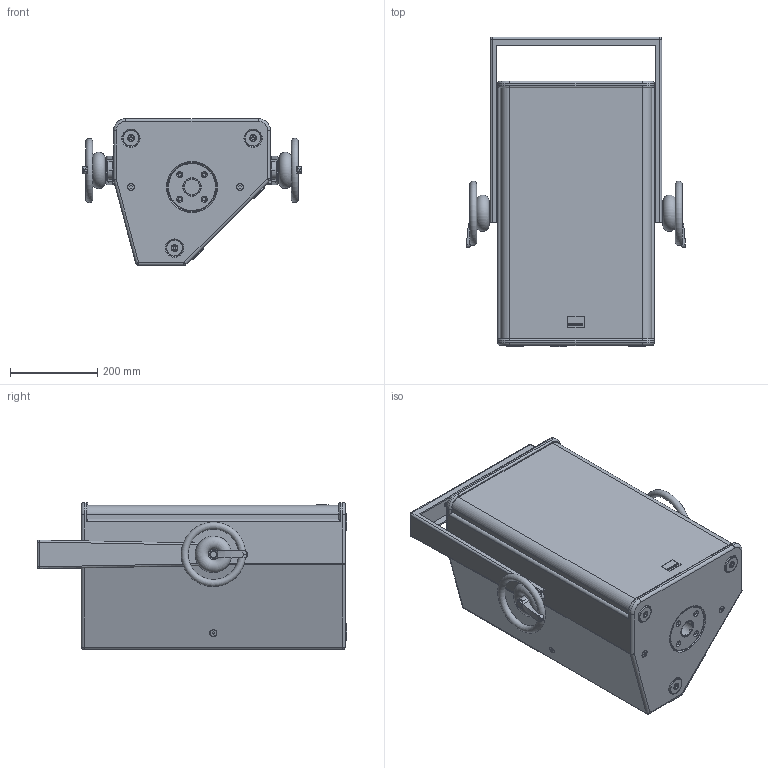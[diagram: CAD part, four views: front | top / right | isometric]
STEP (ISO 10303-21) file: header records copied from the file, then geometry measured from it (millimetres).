
FILE_DESCRIPTION (( 'STEP AP203' ), '1' );
FILE_NAME ('Seeburg_TSM12_Bracket_ver.STEP', '2012-10-17T11:39:20', ( 'Fabian' ), ( '' ), 'SwSTEP 2.0', 'SolidWorks 2009', '' );
FILE_SCHEMA (( 'CONFIG_CONTROL_DESIGN' ));
Length unit declared in the file: millimetre
Products named in the file (2): TSM12_Bracket-ver; Seeburg_TSM12_Bracket_ver
Assembly tree (1 placements, depth 2):
  Seeburg_TSM12_Bracket_ver
    TSM12_Bracket-ver
Bounding box: 501.25 x 710 x 337 mm (x, y, z)
Volume: 16939414 mm3; surface area: 2218029.2 mm2
Topology: 33 solids, 33 shells, 821 faces, 1959 edges, 1234 vertices
Faces by surface type: cylinder 332, plane 257, torus 120, cone 87, sphere 19, bspline 6
Entity records: 28826 total; most frequent: CARTESIAN_POINT 9517, DIRECTION 4184, ORIENTED_EDGE 3870, EDGE_CURVE 1935, AXIS2_PLACEMENT_3D 1664, VERTEX_POINT 1222, EDGE_LOOP 925, VECTOR 856
